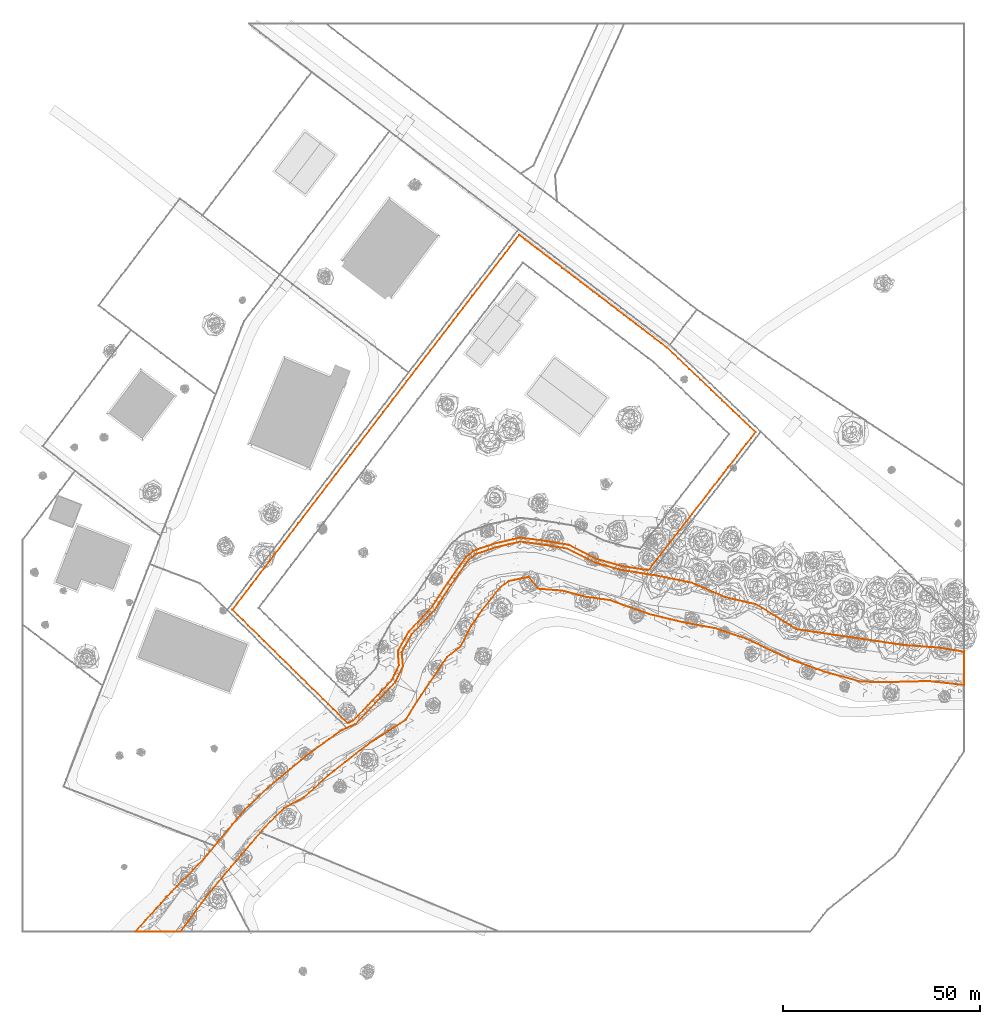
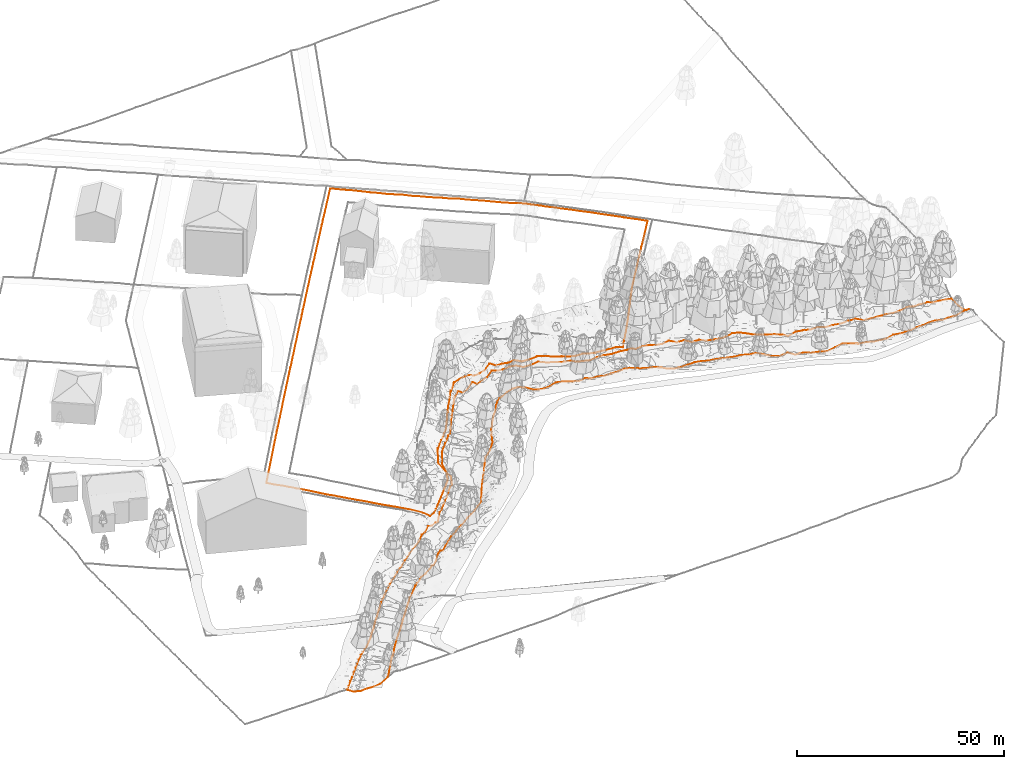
# Not in any storey, part 15 of 88: 2 geographic elements.
"""IFC4 model written with IfcOpenShell, lengths in metres."""

from ifc_helpers import new_model, entity, si_unit, origin_with_axes, place, context, subcontext, project, spatial, element, save


model = new_model("IFC4")

# Units and contexts
model_context = context("Model", 3, precision=1e-05, world=origin_with_axes())
body_context = subcontext(model_context, "Body", "Model", "MODEL_VIEW")
ifc_project = project(units=[si_unit("LENGTHUNIT", "METRE"), si_unit("AREAUNIT", "SQUARE_METRE"), si_unit("VOLUMEUNIT", "CUBIC_METRE"), si_unit("PLANEANGLEUNIT", "RADIAN")], contexts=[model_context])

# Sites
site_1_placement = place(None, origin_with_axes())
site_1 = spatial("IfcSite", under=ifc_project, at=site_1_placement, Name="CH907857693633", CompositionType="ELEMENT")
site_2_placement = place(None, origin_with_axes())
site_2 = spatial("IfcSite", under=site_1, at=site_2_placement, Name="Parcels", CompositionType="ELEMENT")

# Geographic element
geographic_element_1_placement = place(None, origin_with_axes())
element("IfcGeographicElement", 1, at=geographic_element_1_placement, inside=site_2, Name="Parcel_CH698309054580", ObjectType="PARCEL", PredefinedType="USERDEFINED", context=body_context, shape_type="Curve3D", body=[
    entity("IfcIndexedPolyCurve", entity("IfcCartesianPointList3D", [[229.494514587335, 63.4701462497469, 2.3026245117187], [227.815681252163, 63.4258129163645, 2.3833129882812], [226.136847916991, 63.3814795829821, 2.17048339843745], [224.458014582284, 63.3371462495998, 2.23688964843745], [222.779181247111, 63.2928129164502, 1.97211914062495], [221.100347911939, 63.2484795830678, 2.0941284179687], [219.421514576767, 63.2041462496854, 2.10358886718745], [217.643014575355, 63.2298962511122, 2.4367797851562], [215.864514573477, 63.255646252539, 1.88691406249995], [214.0860145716, 63.2813962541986, 2.0399291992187], [212.307514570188, 63.3071462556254, 2.18781738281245], [210.433914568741, 63.8229462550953, 2.42805175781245], [208.560314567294, 64.3387462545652, 2.2166870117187], [206.686714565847, 64.8545462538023, 2.71381835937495], [204.8131145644, 65.3703462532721, 2.95283203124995], [202.939514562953, 65.886146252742, 2.26032714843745], [201.107914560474, 66.5491462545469, 1.30207519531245], [199.276314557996, 67.2121462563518, 1.38251953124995], [197.444714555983, 67.8751462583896, 1.3088500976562], [195.613114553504, 68.5381462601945, 1.57453613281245], [193.781514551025, 69.2011462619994, 1.2664916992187], [192.057014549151, 70.0241462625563, 1.96870117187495], [190.332514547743, 70.8471462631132, 1.03242187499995], [188.608014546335, 71.6701462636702, 1.0931518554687], [186.883514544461, 72.4931462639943, 1.7949340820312], [185.159014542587, 73.3161462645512, 2.30256347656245], [183.434514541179, 74.1391462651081, 1.8524291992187], [181.842914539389, 74.6781462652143, 2.04145507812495], [180.2513145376, 75.2171462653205, 1.76984863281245], [178.659714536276, 75.7561462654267, 1.6958129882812], [177.068114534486, 76.2951462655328, 1.66816406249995], [175.476514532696, 76.834146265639, 1.6226928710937], [173.835914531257, 77.1393462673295, 1.59870605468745], [172.195314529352, 77.4445462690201, 1.8858764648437], [170.554714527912, 77.7497462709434, 1.99848632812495], [168.914114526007, 78.054946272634, 1.6294067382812], [167.273514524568, 78.3601462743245, 1.3446166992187], [165.559714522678, 78.7729462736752, 1.28278808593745], [163.845914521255, 79.1857462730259, 1.5006225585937], [162.132114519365, 79.5985462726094, 2.26386718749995], [160.418314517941, 80.0113462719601, 2.6536987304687], [158.704514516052, 80.4241462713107, 2.7461059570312], [157.050514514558, 81.0131462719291, 2.88984374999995], [155.396514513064, 81.6021462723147, 3.2542846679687], [153.74251451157, 82.1911462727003, 3.28474121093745], [152.088514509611, 82.7801462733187, 2.66926269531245], [150.434514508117, 83.3691462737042, 2.2077758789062], [148.780514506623, 83.9581462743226, 1.73859863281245], [147.182514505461, 84.1818962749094, 2.04877929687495], [145.584514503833, 84.4056462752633, 1.86188964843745], [143.986514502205, 84.6293962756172, 2.36823730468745], [142.388514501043, 84.8531462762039, 1.9937866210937], [140.488847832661, 85.3604796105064, 2.1477172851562], [138.589181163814, 85.8678129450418, 2.5227172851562], [136.689514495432, 86.3751462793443, 2.6187866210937], [135.189514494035, 86.4933962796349, 1.98090820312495], [133.689514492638, 86.6116462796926, 1.75336914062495], [132.189514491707, 86.7298962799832, 1.8831909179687], [130.68951449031, 86.8481462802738, 2.3628051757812], [129.449014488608, 88.3791462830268, 2.3816040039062], [128.208514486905, 89.9101462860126, 2.0880249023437], [126.481514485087, 89.5274796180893, 2.42377929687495], [124.754514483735, 89.1448129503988, 2.32514648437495], [123.027514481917, 88.7621462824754, 1.7244995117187], [122.023514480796, 88.0481462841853, 2.1771362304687], [121.019514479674, 87.3341462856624, 1.9506958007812], [119.851014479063, 85.8576462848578, 2.1803100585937], [118.682514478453, 84.3811462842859, 1.5261352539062], [117.514014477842, 82.9046462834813, 2.14729003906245], [116.345514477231, 81.4281462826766, 2.3761108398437], [115.410847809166, 80.0738129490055, 2.54536132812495], [114.476181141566, 78.7194796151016, 2.13032226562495], [113.541514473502, 77.3651462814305, 2.2749145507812], [112.655514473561, 75.63314628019, 1.7723510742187], [111.769514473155, 73.9011462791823, 2.36335449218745], [110.883514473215, 72.1691462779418, 2.59272460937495], [109.739514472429, 71.3041462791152, 1.24836425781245], [108.595514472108, 70.4391462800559, 1.1226928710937], [107.451514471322, 69.5741462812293, 1.07807617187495], [106.368657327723, 67.9682891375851, 1.38459472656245], [105.285800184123, 66.3624319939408, 1.1291625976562], [104.202943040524, 64.7565748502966, 0.918347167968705], [103.120085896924, 63.1507177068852, 1.03205566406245], [102.037228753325, 61.5448605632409, 0.949536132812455], [100.954371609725, 59.9390034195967, 1.0804565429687], [99.8715144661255, 58.3331462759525, 1.0946166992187], [98.931847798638, 56.7958129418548, 1.14033203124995], [97.9921811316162, 55.25847960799, 1.01240234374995], [97.0525144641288, 53.7211462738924, 1.0943725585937], [95.5483477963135, 52.7404796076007, 0.915844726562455], [94.0441811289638, 51.7598129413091, 0.693737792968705], [92.5400144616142, 50.7791462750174, 0.785107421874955], [91.0358477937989, 49.7984796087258, 0.820935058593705], [89.5316811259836, 48.8178129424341, 0.766308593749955], [88.027514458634, 47.8371462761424, 0.772534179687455], [86.8201811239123, 46.9421462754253, 1.05512695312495], [85.6128477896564, 46.0471462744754, 1.05158691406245], [84.4055144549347, 45.1521462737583, 1.0896118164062], [83.0241144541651, 44.0573462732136, 1.4890258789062], [81.6427144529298, 42.9625462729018, 1.1486938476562], [80.2613144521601, 41.8677462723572, 1.17353515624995], [78.8799144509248, 40.7729462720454, 0.826977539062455], [77.4985144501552, 39.6781462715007, 1.96711425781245], [76.256114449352, 38.5569462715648, 2.2555053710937], [75.0137144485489, 37.4357462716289, 1.19514160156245], [73.77131444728, 36.3145462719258, 1.03156738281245], [72.5289144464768, 35.1933462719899, 1.96540527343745], [71.2865144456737, 34.0721462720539, 2.0304077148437], [69.5985144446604, 33.1528129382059, 1.9397094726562], [67.9105144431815, 32.2334796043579, 2.00812988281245], [66.2225144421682, 31.3141462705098, 1.3382690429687], [65.036764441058, 30.1461462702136, 1.70771484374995], [63.8510144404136, 28.9781462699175, 1.5888793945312], [62.6652644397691, 27.8101462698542, 1.4439819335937], [61.479514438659, 26.642146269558, 1.5798461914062], [60.1845144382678, 25.1181462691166, 1.3946655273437], [58.9603894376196, 23.6778962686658, 1.6186645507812], [57.7362644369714, 22.2376462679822, 1.48237304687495], [56.5121394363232, 20.7973962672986, 1.4460571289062], [55.2880144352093, 19.3571462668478, 1.53645019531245], [54.0638894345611, 17.9168962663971, 1.08344726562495], [52.8397644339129, 16.4766462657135, 1.21174316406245], [51.6156394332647, 15.0363962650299, 1.35236816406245], [50.3915144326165, 13.5961462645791, 1.49213867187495], [49.3960144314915, 12.3848962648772, 1.39558105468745], [48.4005144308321, 11.1736462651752, 1.46052246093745], [47.4050144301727, 9.96239626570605, 1.14118652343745], [46.4095144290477, 8.75114626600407, 0.433178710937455], [45.2719144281, 7.20254626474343, 1.7089965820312], [44.1343144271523, 5.65394626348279, 1.65180664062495], [42.9967144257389, 4.10534626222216, 1.5161254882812], [41.8591144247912, 2.55674626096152, 1.8642700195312], [40.7215144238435, 1.00814625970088, 1.5634887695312], [39.8998232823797, 0.0, 1.7606323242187], [37.9987265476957, 0.0, 0.618664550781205], [36.0976298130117, 0.0, 0.351635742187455], [34.1965330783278, 0.0, 0.482800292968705], [32.2954363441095, 0.0, 0.381604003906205], [30.3943396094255, 0.0, 0.879040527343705], [28.4932428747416, 0.0, 2.05915527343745], [29.8088530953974, 1.45002089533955, 1.84345703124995], [31.1244633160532, 2.90004179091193, 1.8956420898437], [32.440073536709, 4.35006268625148, 1.75422363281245], [33.7556837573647, 5.80008358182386, 1.75397949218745], [35.0712939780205, 7.2501044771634, 1.9388549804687], [36.3869041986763, 8.70012537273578, 1.6710327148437], [37.7025144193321, 10.1501462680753, 1.6742065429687], [39.0475144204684, 11.5124796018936, 1.62507324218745], [40.3925144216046, 12.8748129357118, 1.28193359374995], [41.7375144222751, 14.2371462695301, 0.842785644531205], [43.0825144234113, 15.5994796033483, 0.250561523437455], [44.4275144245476, 16.9618129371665, 0.415417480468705], [45.7725144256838, 18.3241462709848, 0.373791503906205], [46.6968477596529, 19.4464796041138, 0.660839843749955], [47.621181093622, 20.5688129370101, 0.460400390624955], [48.5455144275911, 21.6911462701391, 0.334667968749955], [49.7445144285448, 23.1471462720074, 0.738110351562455], [50.9435144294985, 24.6031462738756, 0.295300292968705], [52.0103144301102, 25.8685462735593, 0.478710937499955], [53.0771144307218, 27.1339462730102, 0.472668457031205], [54.1439144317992, 28.3993462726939, 0.509350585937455], [55.2107144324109, 29.6647462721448, 0.576062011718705], [56.2775144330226, 30.9301462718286, 0.204724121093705], [57.4487144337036, 32.0533462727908, 0.253124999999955], [58.6199144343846, 33.1765462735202, 0.388439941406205], [59.7911144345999, 34.2997462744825, 0.317883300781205], [60.9623144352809, 35.4229462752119, 0.435864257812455], [62.1335144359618, 36.5461462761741, 0.424511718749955], [63.5219430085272, 37.6962891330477, 0.168469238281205], [64.9103715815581, 38.8464319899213, 0.406994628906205], [66.2988001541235, 39.9965748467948, 0.361523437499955], [67.6872287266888, 41.1467177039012, 0.225964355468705], [69.0756572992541, 42.2968605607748, 0.366284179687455], [70.4640858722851, 43.4470034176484, 0.289440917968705], [71.8525144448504, 44.5971462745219, 0.282727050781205], [73.2923477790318, 45.6416462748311, 0.295727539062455], [74.7321811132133, 46.6861462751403, 0.228833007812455], [76.1720144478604, 47.7306462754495, 0.254345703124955], [77.6118477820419, 48.7751462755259, 1.10639648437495], [79.0516811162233, 49.8196462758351, 0.649609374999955], [80.4915144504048, 50.8641462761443, 1.3358276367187], [82.0725144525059, 51.5941462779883, 0.550610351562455], [83.1925144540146, 52.1116462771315, 0.659558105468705], [84.3125144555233, 52.6291462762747, 0.207287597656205], [85.5648894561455, 53.9430212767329, 1.92292480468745], [86.8172644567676, 55.2568962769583, 1.37678222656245], [88.0696394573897, 56.5707712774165, 1.3802612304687], [89.3220144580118, 57.8846462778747, 1.55451660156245], [90.574389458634, 59.1985212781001, 1.42377929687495], [91.8267644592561, 60.5123962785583, 1.78889160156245], [93.0791394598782, 61.8262712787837, 2.0389526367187], [94.3315144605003, 63.1401462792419, 1.3875854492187], [94.9958477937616, 64.5314796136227, 1.40839843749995], [95.660181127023, 65.9228129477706, 1.47285156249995], [96.3245144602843, 67.3141462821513, 0.622265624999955], [96.1785144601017, 69.0736462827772, 0.893505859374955], [96.0325144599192, 70.8331462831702, 2.12324218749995], [96.8738477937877, 72.3341462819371, 1.8770874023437], [97.7151811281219, 73.8351462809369, 2.0771606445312], [98.5565144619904, 75.3361462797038, 2.20270996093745], [99.714514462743, 76.5719462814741, 2.34125976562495], [100.87251446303, 77.8077462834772, 2.39252929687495], [102.030514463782, 79.0435462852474, 2.19465332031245], [103.188514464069, 80.2793462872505, 2.34052734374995], [104.346514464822, 81.5151462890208, 1.5810668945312], [105.361264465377, 83.0718962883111, 1.23322753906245], [106.376014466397, 84.6286462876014, 0.907177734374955], [107.390764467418, 86.1853962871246, 1.38422851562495], [108.405514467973, 87.7421462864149, 1.5462768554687], [109.549014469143, 89.3523962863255, 1.4798706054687], [110.692514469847, 90.9626462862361, 1.9008911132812], [111.836014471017, 92.5728962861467, 1.54743652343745], [112.979514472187, 94.1831462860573, 2.00898437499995], [113.821014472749, 94.8866462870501, 1.69367675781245], [114.662514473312, 95.5901462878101, 2.1939819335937], [116.335847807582, 96.1691462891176, 0.824108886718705], [118.009181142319, 96.7481462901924, 0.717297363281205], [119.68251447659, 97.3271462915, 2.0927856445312], [121.273514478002, 97.6946462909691, 0.673413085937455], [122.864514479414, 98.0621462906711, 0.968334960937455], [124.455514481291, 98.4296462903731, 1.23884277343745], [126.046514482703, 98.7971462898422, 2.2684448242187], [127.581014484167, 98.5943962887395, 1.82905273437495], [129.115514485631, 98.3916462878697, 1.85883789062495], [130.650014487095, 98.188896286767, 2.24189453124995], [132.184514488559, 97.9861462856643, 2.12971191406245], [134.092181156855, 97.6698129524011, 1.2193725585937], [135.999847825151, 97.3534796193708, 1.38142089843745], [137.907514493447, 97.0371462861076, 1.8573120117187], [139.674764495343, 96.1428962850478, 1.5522583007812], [141.442014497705, 95.2486462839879, 1.5672729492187], [143.209264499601, 94.3543962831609, 1.5665405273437], [144.976514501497, 93.4601462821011, 1.83454589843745], [146.559014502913, 93.0173962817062, 1.26191406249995], [148.141514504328, 92.5746462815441, 1.21381835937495], [149.724014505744, 92.1318962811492, 1.13007812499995], [151.30651450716, 91.6891462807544, 1.7606323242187], [153.207514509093, 91.3776462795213, 1.85981445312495], [155.108514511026, 91.0661462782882, 1.7456176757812], [157.00951451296, 90.7546462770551, 1.98005371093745], [158.910514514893, 90.4431462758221, 2.00043945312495], [160.029514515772, 90.2596462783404, 2.13496093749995], [161.148514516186, 90.0761462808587, 1.6859252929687], [162.819714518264, 89.7339462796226, 2.11774902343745], [164.490914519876, 89.3917462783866, 2.02302246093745], [166.162114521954, 89.0495462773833, 1.7122924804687], [167.833314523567, 88.7073462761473, 1.65461425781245], [169.504514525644, 88.3651462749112, 2.3094604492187], [171.193514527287, 87.6317462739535, 1.61274414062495], [172.882514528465, 86.8983462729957, 2.11665039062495], [174.571514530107, 86.1649462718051, 1.43464355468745], [176.260514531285, 85.4315462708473, 1.9362915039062], [177.949514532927, 84.6981462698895, 1.5405395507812], [179.526314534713, 84.3387462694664, 1.54072265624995], [181.103114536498, 83.9793462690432, 1.49042968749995], [182.679914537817, 83.61994626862, 1.66450195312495], [184.256714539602, 83.2605462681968, 2.3787963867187], [185.833514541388, 82.9011462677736, 2.2712524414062], [187.293943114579, 81.9981462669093, 2.0726440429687], [188.754371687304, 81.095146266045, 1.7928588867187], [190.214800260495, 80.1921462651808, 1.7945678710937], [191.675228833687, 79.2891462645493, 1.8447387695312], [193.135657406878, 78.3861462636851, 1.91706542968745], [194.596085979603, 77.4831462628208, 1.9321411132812], [196.056514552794, 76.5801462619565, 1.50971679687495], [197.987728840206, 76.2963605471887, 2.27570800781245], [199.918943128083, 76.0125748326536, 2.16657714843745], [201.850157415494, 75.7287891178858, 1.9503295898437], [203.781371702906, 75.4450034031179, 2.17683105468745], [205.712585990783, 75.16121768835, 1.62983398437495], [207.643800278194, 74.877431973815, 1.73920898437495], [209.575014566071, 74.5936462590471, 1.6384399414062], [211.506228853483, 74.3098605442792, 1.9664428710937], [213.437443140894, 74.0260748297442, 2.05793457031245], [215.368657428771, 73.7422891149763, 1.1278198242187], [217.299871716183, 73.4585034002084, 1.0871704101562], [219.231086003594, 73.1747176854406, 1.24116210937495], [221.162300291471, 72.8909319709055, 1.33869628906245], [223.093514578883, 72.6071462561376, 1.2801635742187], [224.923514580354, 72.4691462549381, 1.3280151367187], [226.75351458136, 72.3311462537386, 1.90852050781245], [228.583514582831, 72.1931462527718, 1.51472167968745], [230.413514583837, 72.0551462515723, 1.60175781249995], [232.243514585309, 71.9171462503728, 1.60432128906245], [233.807635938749, 71.6603502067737, 1.1987426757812], [235.371757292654, 71.4035541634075, 1.30476074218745], [236.93587864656, 71.1467581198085, 1.22065429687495], [238.5, 70.8899620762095, 1.16474609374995], [238.5, 69.2055570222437, 1.1113403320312], [238.5, 67.5211519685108, 1.04658203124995], [238.5, 65.8367469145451, 1.27656249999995], [238.5, 64.1523418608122, 1.7677124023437], [238.5, 62.4679368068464, 3.21369628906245], [236.69890291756, 62.6683786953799, 2.9755981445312], [234.89780583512, 62.8688205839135, 2.19001464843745], [233.096708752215, 63.0692624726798, 2.1490600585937], [231.295611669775, 63.2697043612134, 1.93354492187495], [229.494514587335, 63.4701462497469, 2.3026245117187]]), None, False),
])

# Site
site_3_placement = place(None, origin_with_axes())
site_3 = spatial("IfcSite", under=site_1, at=site_3_placement, Name="Setbacks", CompositionType="ELEMENT")

# Geographic element
geographic_element_2_placement = place(None, origin_with_axes())
element("IfcGeographicElement", 2, at=geographic_element_2_placement, inside=site_3, Name="Limite de modification du TN à 1.0m de la limite de propriété", ObjectType="SETBACK", PredefinedType="USERDEFINED", context=body_context, shape_type="Curve3D", body=[
    entity("IfcIndexedPolyCurve", entity("IfcCartesianPointList3D", [[163.255898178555, 147.908684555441, 8.90372314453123], [164.653152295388, 146.572902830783, 8.93405761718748], [166.050406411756, 145.237121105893, 8.93472900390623], [167.447660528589, 143.901339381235, 8.91031494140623], [168.844914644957, 142.565557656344, 8.97940673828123], [170.24216876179, 141.229775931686, 8.95621337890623], [171.639422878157, 139.893994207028, 8.98715820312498], [173.036676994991, 138.558212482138, 8.98361816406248], [174.433931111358, 137.22243075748, 9.01468505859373], [175.831185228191, 135.886649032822, 9.02426757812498], [177.228439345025, 134.550867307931, 8.97659912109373], [178.625693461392, 133.215085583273, 8.96878662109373], [180.022947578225, 131.879303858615, 8.97220458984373], [181.420201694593, 130.543522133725, 8.93558349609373], [182.817455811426, 129.207740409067, 8.91403808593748], [184.214709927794, 127.871958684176, 8.90250244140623], [185.611964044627, 126.536176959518, 8.88175048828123], [184.463303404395, 125.053809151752, 8.90512695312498], [183.314642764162, 123.571441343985, 8.89383544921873], [182.16598212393, 122.089073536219, 8.85660400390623], [181.017321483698, 120.606705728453, 8.84976806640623], [179.868660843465, 119.124337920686, 8.90579833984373], [178.720000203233, 117.64197011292, 8.89853515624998], [177.571339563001, 116.159602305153, 8.85056152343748], [176.422678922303, 114.677234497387, 8.84854736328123], [175.274018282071, 113.194866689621, 8.95303955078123], [174.125357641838, 111.712498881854, 8.80948486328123], [172.976697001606, 110.230131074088, 8.75754394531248], [171.828036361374, 108.747763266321, 8.81217041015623], [170.679375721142, 107.265395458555, 8.75406494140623], [169.530715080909, 105.783027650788, 8.66910400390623], [168.382054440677, 104.300659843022, 8.50791015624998], [167.282344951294, 102.881282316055, 7.49692382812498], [166.182635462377, 101.461904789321, 6.44687499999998], [165.082925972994, 100.042527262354, 5.32651367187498], [163.983216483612, 98.6231497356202, 4.29685058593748], [162.883506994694, 97.2037722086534, 3.83725585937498], [161.783797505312, 95.7843946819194, 3.21396484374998], [160.684088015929, 94.3650171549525, 2.88632812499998], [159.584378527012, 92.9456396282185, 2.83756103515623], [158.484669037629, 91.5262621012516, 2.22824707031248], [156.744187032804, 91.8114594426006, 2.78262939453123], [155.003705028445, 92.0966567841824, 2.56528320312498], [153.26322302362, 92.3818541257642, 2.52091064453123], [151.522741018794, 92.6670514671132, 2.45206298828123], [149.977168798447, 93.0994698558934, 2.44028320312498], [148.431596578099, 93.5318882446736, 2.64377441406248], [146.886024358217, 93.9643066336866, 2.34274902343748], [145.340452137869, 94.3967250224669, 2.36832275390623], [143.595092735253, 95.2798981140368, 2.51480712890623], [141.849733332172, 96.1630712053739, 2.44534912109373], [140.104373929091, 97.0462442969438, 2.79129638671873], [138.359014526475, 97.9294173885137, 2.79868164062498], [138.266399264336, 97.9705281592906, 2.79868164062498], [138.170099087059, 98.0020552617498, 2.65543212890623], [138.071102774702, 98.0236749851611, 2.65543212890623], [136.163436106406, 98.3400083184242, 2.34812011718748], [134.25576943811, 98.6563416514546, 2.23526611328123], [132.348102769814, 98.9726749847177, 3.10184326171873], [132.315503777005, 98.9775300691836, 3.10184326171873], [130.781003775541, 99.1802800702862, 2.72232666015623], [129.246503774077, 99.3830300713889, 2.90720214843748], [127.712003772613, 99.5857800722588, 2.72391357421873], [126.177503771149, 99.7885300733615, 3.73532714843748], [126.08827608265, 99.7962738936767, 3.73532714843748], [125.998713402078, 99.7960031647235, 3.73532714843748], [125.909534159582, 99.787720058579, 3.73532714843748], [125.821453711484, 99.7714910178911, 3.73532714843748], [124.230453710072, 99.4039910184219, 2.65323486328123], [122.639453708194, 99.03649101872, 2.48526611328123], [121.048453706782, 98.668991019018, 2.63278808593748], [119.45745370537, 98.3014910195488, 3.65262451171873], [119.355520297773, 98.2721726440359, 3.65262451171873], [117.682186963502, 97.6931726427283, 4.10941162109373], [116.008853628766, 97.1141726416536, 4.40250244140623], [114.335520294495, 96.535172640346, 4.37949218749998], [114.251178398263, 96.5016300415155, 4.37949218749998], [114.170225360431, 96.4605780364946, 4.38437499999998], [114.093328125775, 96.4123548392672, 4.38437499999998], [114.021120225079, 96.3573577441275, 4.38437499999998], [113.179620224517, 95.6538577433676, 3.52023925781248], [112.338120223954, 94.9503577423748, 3.11649169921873], [112.274831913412, 94.8926690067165, 3.11649169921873], [112.216711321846, 94.8297770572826, 3.60306396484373], [112.164184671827, 94.7621431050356, 3.60306396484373], [111.020684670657, 93.1518931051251, 3.04410400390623], [109.877184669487, 91.5416431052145, 3.15494384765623], [108.733684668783, 89.9313931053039, 3.24667968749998], [107.590184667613, 88.3211431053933, 2.73374023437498], [107.567775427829, 88.288217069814, 2.73374023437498], [106.565017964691, 86.7498650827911, 2.31790771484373], [105.562260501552, 85.211513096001, 2.01474609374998], [104.559503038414, 83.6731611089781, 2.45920410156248], [103.556745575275, 82.1348091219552, 2.65958251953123], [102.410758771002, 80.9118294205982, 2.96011962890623], [101.264771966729, 79.6888497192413, 2.75833740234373], [100.118785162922, 78.4658700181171, 3.23673095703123], [98.972798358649, 77.2428903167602, 3.12631835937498], [97.826811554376, 76.0199106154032, 2.98312988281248], [97.7496046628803, 75.9268209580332, 3.26517333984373], [97.684200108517, 75.8250917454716, 3.26517333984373], [96.8428667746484, 74.3240917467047, 2.63321533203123], [96.0015334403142, 72.8230917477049, 2.60184326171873], [95.1602001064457, 71.322091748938, 2.72330322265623], [95.1161669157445, 71.2335300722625, 2.58536376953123], [95.0810975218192, 71.1410518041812, 2.58536376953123], [95.0553349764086, 71.0455615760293, 2.58536376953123], [95.039131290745, 70.9479934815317, 2.58536376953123], [95.0326449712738, 70.84930194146, 2.58536376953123], [95.0359394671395, 70.7504523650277, 2.58536376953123], [95.170757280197, 69.1257130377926, 2.39151611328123], [95.3055750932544, 67.5009737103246, 1.92038574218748], [94.702966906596, 66.2389132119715, 2.37601318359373], [94.1003587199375, 64.9768527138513, 2.57883300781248], [93.497750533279, 63.7147922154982, 2.59781494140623], [92.2755468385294, 62.4325701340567, 2.54929199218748], [91.0533431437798, 61.1503480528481, 2.45889892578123], [89.8311394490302, 59.8681259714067, 2.33725585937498], [88.6089357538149, 58.5859038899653, 2.37467041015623], [87.3867320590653, 57.3036818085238, 2.34543457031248], [86.1645283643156, 56.0214597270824, 2.43845214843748], [84.942324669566, 54.7392376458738, 2.53189697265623], [83.7201209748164, 53.4570155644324, 2.68820800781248], [82.2809535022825, 52.7920430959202, 2.61881103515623], [81.0509492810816, 54.0025054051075, 3.19376220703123], [79.8209450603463, 55.2129677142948, 3.41574707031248], [78.590940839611, 56.4234300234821, 3.60629882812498], [77.3609366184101, 57.6338923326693, 3.68460693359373], [76.0119675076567, 58.9611999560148, 3.74399414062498], [74.6629983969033, 60.2885075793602, 3.79520263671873], [73.3140292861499, 61.6158152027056, 3.83945312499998], [71.9650601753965, 62.9431228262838, 3.94278564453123], [70.6160910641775, 64.2704304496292, 4.05490722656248], [69.2671219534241, 65.5977380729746, 4.10281982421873], [67.9181528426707, 66.92504569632, 4.16367187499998], [66.5691837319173, 68.2523533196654, 4.26468505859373], [65.2202146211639, 69.5796609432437, 4.35660400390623], [63.8712455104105, 70.9069685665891, 4.39957275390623], [62.5222763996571, 72.2342761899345, 4.53043212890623], [61.1733072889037, 73.5615838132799, 4.65457763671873], [59.8243381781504, 74.8888914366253, 4.79343261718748], [58.4753690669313, 76.2161990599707, 4.86234130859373], [57.1263999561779, 77.5435066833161, 4.95664062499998], [55.7774308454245, 78.8708143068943, 5.03415527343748], [54.4284617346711, 80.1981219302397, 5.01291503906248], [53.0794926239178, 81.5254295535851, 5.16214599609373], [54.2745453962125, 83.0911078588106, 5.36606445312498], [55.4695981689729, 84.656786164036, 5.47977294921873], [56.6646509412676, 86.2224644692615, 5.61661376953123], [57.8597037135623, 87.7881427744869, 5.74930419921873], [59.0547564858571, 89.3538210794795, 5.93088378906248], [60.2498092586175, 90.919499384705, 6.04465332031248], [61.4448620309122, 92.4851776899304, 6.31583251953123], [62.6399148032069, 94.0508559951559, 6.38217773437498], [63.8349675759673, 95.6165343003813, 6.50565185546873], [65.030020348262, 97.1822126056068, 6.62436523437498], [66.2250731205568, 98.7478909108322, 6.65787353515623], [67.4201258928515, 100.313569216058, 6.83505859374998], [68.6151786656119, 101.879247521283, 6.87900390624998], [69.8102314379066, 103.444925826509, 7.00131835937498], [71.0052842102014, 105.010604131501, 7.07199707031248], [72.2003369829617, 106.576282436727, 7.23532714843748], [73.3953897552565, 108.141960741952, 7.33408203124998], [74.5904425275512, 109.707639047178, 7.33676757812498], [75.7854952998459, 111.273317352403, 7.45609130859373], [76.9805480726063, 112.838995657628, 7.48843994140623], [78.1756008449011, 114.404673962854, 7.55197753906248], [79.3706536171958, 115.970352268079, 7.66995849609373], [80.5657063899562, 117.536030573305, 7.69083251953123], [81.7607591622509, 119.101708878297, 7.74527587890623], [82.9558119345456, 120.667387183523, 7.80344238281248], [84.150864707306, 122.233065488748, 7.83646240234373], [85.3459174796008, 123.798743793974, 7.92893066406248], [86.5409702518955, 125.364422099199, 7.96890869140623], [87.7360230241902, 126.930100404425, 8.01267089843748], [88.9310757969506, 128.49577870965, 8.08658447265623], [90.1261285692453, 130.061457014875, 8.13669433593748], [91.3211813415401, 131.627135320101, 8.18540039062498], [92.5162341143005, 133.192813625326, 8.17770996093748], [93.7112868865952, 134.758491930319, 8.19974365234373], [94.9063396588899, 136.324170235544, 8.27591552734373], [96.1013924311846, 137.88984854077, 8.38706054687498], [97.296445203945, 139.455526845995, 8.44663085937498], [98.4914979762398, 141.021205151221, 8.48673095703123], [99.6762902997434, 142.563714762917, 8.51022949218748], [100.861082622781, 144.106224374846, 8.55759277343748], [102.045874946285, 145.648733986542, 8.59860839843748], [103.230667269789, 147.191243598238, 8.67545166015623], [104.415459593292, 148.733753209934, 8.71292724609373], [105.60025191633, 150.276262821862, 8.73874511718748], [106.785044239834, 151.818772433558, 8.79910888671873], [107.969836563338, 153.361282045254, 8.86118164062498], [109.154628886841, 154.90379165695, 8.87155761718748], [110.339421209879, 156.446301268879, 8.88687744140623], [111.524213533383, 157.988810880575, 8.93045654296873], [112.709005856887, 159.531320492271, 8.96103515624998], [113.89379818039, 161.073830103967, 8.98215332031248], [115.078590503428, 162.616339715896, 9.06351318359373], [116.263382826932, 164.158849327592, 9.05673828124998], [117.448175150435, 165.701358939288, 9.09323730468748], [118.632967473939, 167.243868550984, 9.13608398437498], [119.817759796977, 168.786378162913, 9.03995361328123], [121.002552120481, 170.328887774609, 9.01944580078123], [122.187344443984, 171.871397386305, 9.07034912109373], [123.372136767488, 173.413906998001, 9.12576904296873], [124.556929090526, 174.95641660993, 9.05869140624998], [125.74172141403, 176.498926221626, 9.13663330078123], [127.304812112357, 175.30766615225, 9.05045166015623], [128.867902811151, 174.116406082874, 9.05570068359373], [130.430993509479, 172.925146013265, 9.02628173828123], [131.994084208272, 171.73388594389, 8.94541015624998], [133.5571749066, 170.542625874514, 8.84055175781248], [135.120265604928, 169.351365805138, 8.82468261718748], [136.683356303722, 168.160105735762, 8.71958007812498], [138.24644700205, 166.968845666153, 8.76730957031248], [139.809537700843, 165.777585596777, 8.84097900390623], [141.372628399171, 164.586325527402, 8.69638671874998], [142.935719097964, 163.395065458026, 8.74643554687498], [144.498809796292, 162.203805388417, 8.70023193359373], [146.06190049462, 161.012545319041, 8.72025146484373], [147.624991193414, 159.821285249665, 8.78909912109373], [149.188081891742, 158.63002518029, 8.71616210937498], [150.751172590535, 157.438765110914, 8.86850585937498], [152.314263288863, 156.247505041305, 8.78708496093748], [153.877353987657, 155.056244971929, 8.80832519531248], [155.440444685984, 153.864984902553, 8.83292236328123], [157.003535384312, 152.673724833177, 8.78269042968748], [158.566626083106, 151.482464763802, 8.72183837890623], [160.129716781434, 150.291204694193, 8.73374023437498], [161.692807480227, 149.099944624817, 8.81149902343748], [163.255898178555, 147.908684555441, 8.90372314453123]]), None, False),
])

save(model, "model.ifc")
